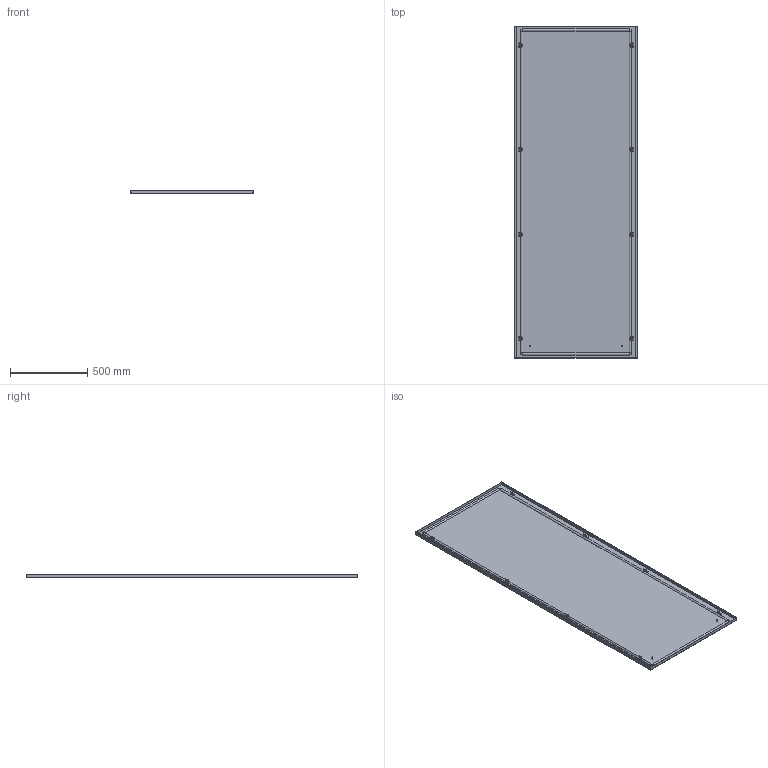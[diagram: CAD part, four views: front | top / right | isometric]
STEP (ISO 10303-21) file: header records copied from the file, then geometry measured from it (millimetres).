
FILE_DESCRIPTION(('Open CASCADE Model'),'2;1');
FILE_NAME('Open CASCADE Shape Model','2025-02-07T16:30:50',('Author'),( 'Open CASCADE'),'Open CASCADE STEP processor 7.8','Open CASCADE 7.8' ,'Unknown');
FILE_SCHEMA(('AUTOMOTIVE_DESIGN { 1 0 10303 214 1 1 1 1 }'));
Length unit declared in the file: millimetre
Products named in the file (10): Compound1; Compound2; Compound3; Solid1; Solid2; Solid3; Solid4; Solid5; Solid6; Solid7
Assembly tree (40 placements, depth 4):
  Compound1
    Compound2
      Compound3
        Solid1
        Solid2  x4
      Solid3
    Solid4  x8
    Solid5  x8
    Solid6  x8
    Solid7  x8
Bounding box: 794 x 2155 x 23.8 mm (x, y, z)
Volume: 3313084 mm3; surface area: 3986311.6 mm2
Topology: 38 solids, 38 shells, 1655 faces, 4040 edges, 2460 vertices
Faces by surface type: plane 1043, cone 308, cylinder 268, torus 28, bspline 8
Full cylindrical faces by diameter (mm): 5 x16, 6 x132, 7.5 x4, 8 x16, 10 x8, 11.57 x8
Entity records: 7757 total; most frequent: CARTESIAN_POINT 1447, DIRECTION 1265, ORIENTED_EDGE 1244, EDGE_CURVE 622, AXIS2_PLACEMENT_3D 428, LINE 409, VECTOR 409, VERTEX_POINT 387
